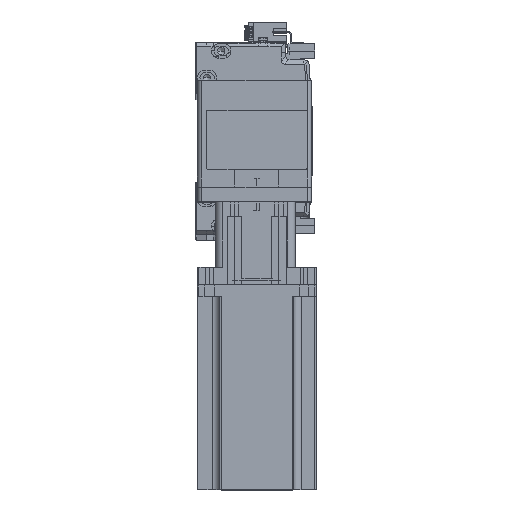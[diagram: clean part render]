
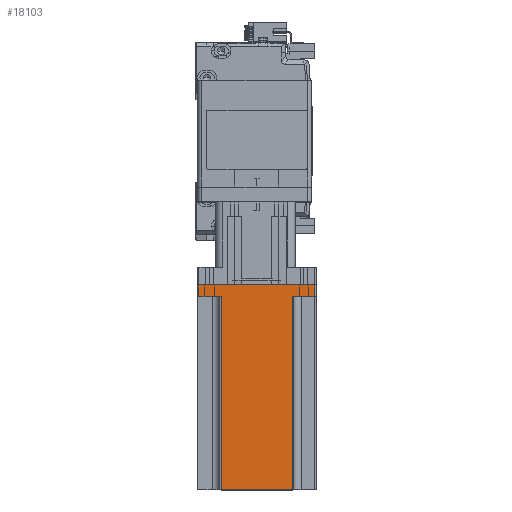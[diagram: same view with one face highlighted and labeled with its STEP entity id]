
A CAD part, top view. The second image highlights one B-rep face of the part: STEP entity #18103.
In plain terms, the highlighted planar face has unit normal (0, 0, 1) as drawn and (0, 1, 0) by its records, which use the part's own axes.
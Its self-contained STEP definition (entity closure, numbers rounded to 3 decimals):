
#1376 = VECTOR ( 'NONE', #28103, 1000. ) ;
#2032 = ORIENTED_EDGE ( 'NONE', *, *, #28921, .T. ) ;
#2822 = ORIENTED_EDGE ( 'NONE', *, *, #58316, .T. ) ;
#4197 = VERTEX_POINT ( 'NONE', #35808 ) ;
#4931 = VERTEX_POINT ( 'NONE', #48290 ) ;
#5063 = DIRECTION ( 'NONE',  ( 1., 0., 0. ) ) ;
#5750 = LINE ( 'NONE', #14867, #50165 ) ;
#7146 = CARTESIAN_POINT ( 'NONE',  ( -39., 40., 8. ) ) ;
#7872 = CARTESIAN_POINT ( 'NONE',  ( 24., 40., 138.3 ) ) ;
#8025 = VERTEX_POINT ( 'NONE', #44200 ) ;
#8105 = DIRECTION ( 'NONE',  ( 0., -1., 0. ) ) ;
#10609 = VECTOR ( 'NONE', #39140, 1000. ) ;
#13996 = VECTOR ( 'NONE', #52969, 1000. ) ;
#14867 = CARTESIAN_POINT ( 'NONE',  ( 39., 40., 138.3 ) ) ;
#15565 = VECTOR ( 'NONE', #50028, 1000. ) ;
#15738 = CARTESIAN_POINT ( 'NONE',  ( -24., 40., 138.3 ) ) ;
#17731 = PLANE ( 'NONE',  #47533 ) ;
#18103 = ADVANCED_FACE ( 'NONE', ( #59023 ), #17731, .F. ) ;
#18301 = VECTOR ( 'NONE', #5063, 1000. ) ;
#19384 = CARTESIAN_POINT ( 'NONE',  ( 40., 40., 0. ) ) ;
#19598 = VERTEX_POINT ( 'NONE', #58555 ) ;
#19931 = ORIENTED_EDGE ( 'NONE', *, *, #47151, .T. ) ;
#23126 = CARTESIAN_POINT ( 'NONE',  ( 40., 40., 138.3 ) ) ;
#27983 = VERTEX_POINT ( 'NONE', #43331 ) ;
#28103 = DIRECTION ( 'NONE',  ( -1., 0., 0. ) ) ;
#28921 = EDGE_CURVE ( 'NONE', #30975, #8025, #57397, .T. ) ;
#29333 = CARTESIAN_POINT ( 'NONE',  ( -39., 40., 138.3 ) ) ;
#30732 = EDGE_CURVE ( 'NONE', #4931, #55596, #5750, .T. ) ;
#30975 = VERTEX_POINT ( 'NONE', #7146 ) ;
#30992 = CARTESIAN_POINT ( 'NONE',  ( 39., 40., 0. ) ) ;
#32337 = EDGE_CURVE ( 'NONE', #8025, #19598, #43179, .T. ) ;
#32954 = ORIENTED_EDGE ( 'NONE', *, *, #36106, .F. ) ;
#33324 = CARTESIAN_POINT ( 'NONE',  ( 24., 40., 138.3 ) ) ;
#33830 = VECTOR ( 'NONE', #59926, 1000. ) ;
#33832 = EDGE_LOOP ( 'NONE', ( #2032, #62903, #32954, #58833, #46415, #51022, #2822, #19931 ) ) ;
#34408 = CARTESIAN_POINT ( 'NONE',  ( -25., 40., 8. ) ) ;
#35808 = CARTESIAN_POINT ( 'NONE',  ( -39., 40., 0. ) ) ;
#36106 = EDGE_CURVE ( 'NONE', #45295, #19598, #40423, .T. ) ;
#37424 = CARTESIAN_POINT ( 'NONE',  ( 40., 40., 138.3 ) ) ;
#39140 = DIRECTION ( 'NONE',  ( 0., 0., 1. ) ) ;
#40423 = LINE ( 'NONE', #23126, #1376 ) ;
#42359 = DIRECTION ( 'NONE',  ( 1., 0., 0. ) ) ;
#42992 = EDGE_CURVE ( 'NONE', #45295, #27983, #54661, .T. ) ;
#43179 = LINE ( 'NONE', #15738, #15565 ) ;
#43331 = CARTESIAN_POINT ( 'NONE',  ( 24., 40., 8. ) ) ;
#44200 = CARTESIAN_POINT ( 'NONE',  ( -24., 40., 8. ) ) ;
#44220 = DIRECTION ( 'NONE',  ( 0., 0., -1. ) ) ;
#44961 = CARTESIAN_POINT ( 'NONE',  ( 25., 40., 8. ) ) ;
#45295 = VERTEX_POINT ( 'NONE', #7872 ) ;
#46415 = ORIENTED_EDGE ( 'NONE', *, *, #61430, .F. ) ;
#46864 = LINE ( 'NONE', #44961, #33830 ) ;
#47151 = EDGE_CURVE ( 'NONE', #4197, #30975, #61165, .T. ) ;
#47533 = AXIS2_PLACEMENT_3D ( 'NONE', #37424, #8105, #42359 ) ;
#47746 = VECTOR ( 'NONE', #58556, 1000. ) ;
#48290 = CARTESIAN_POINT ( 'NONE',  ( 39., 40., 8. ) ) ;
#50028 = DIRECTION ( 'NONE',  ( 0., 0., 1. ) ) ;
#50165 = VECTOR ( 'NONE', #44220, 1000. ) ;
#51022 = ORIENTED_EDGE ( 'NONE', *, *, #30732, .T. ) ;
#52969 = DIRECTION ( 'NONE',  ( 0., 0., -1. ) ) ;
#54661 = LINE ( 'NONE', #33324, #13996 ) ;
#55596 = VERTEX_POINT ( 'NONE', #30992 ) ;
#57397 = LINE ( 'NONE', #34408, #18301 ) ;
#58316 = EDGE_CURVE ( 'NONE', #55596, #4197, #62236, .T. ) ;
#58555 = CARTESIAN_POINT ( 'NONE',  ( -24., 40., 138.3 ) ) ;
#58556 = DIRECTION ( 'NONE',  ( -1., 0., 0. ) ) ;
#58833 = ORIENTED_EDGE ( 'NONE', *, *, #42992, .T. ) ;
#59023 = FACE_OUTER_BOUND ( 'NONE', #33832, .T. ) ;
#59926 = DIRECTION ( 'NONE',  ( -1., 0., 0. ) ) ;
#61165 = LINE ( 'NONE', #29333, #10609 ) ;
#61430 = EDGE_CURVE ( 'NONE', #4931, #27983, #46864, .T. ) ;
#62236 = LINE ( 'NONE', #19384, #47746 ) ;
#62903 = ORIENTED_EDGE ( 'NONE', *, *, #32337, .T. ) ;
